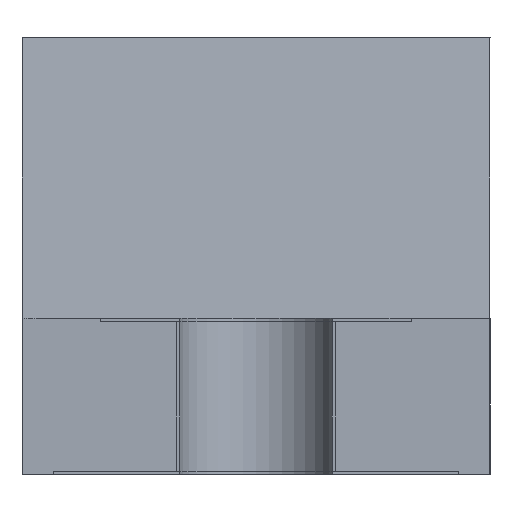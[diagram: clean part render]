
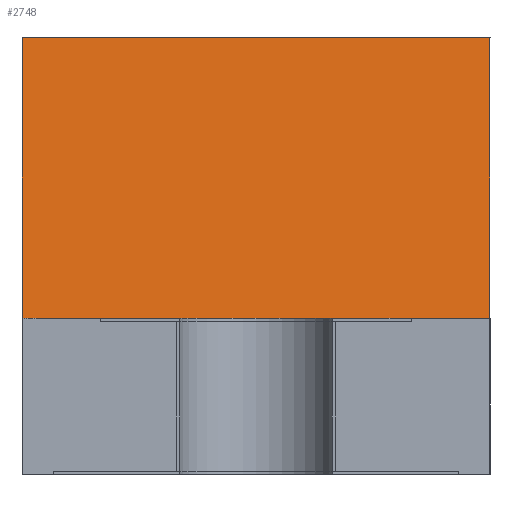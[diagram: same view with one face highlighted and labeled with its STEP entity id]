
A CAD part, left-side view. The second image highlights one B-rep face of the part: STEP entity #2748.
In plain terms, the highlighted planar face has unit normal (-0.994, 0, 0.11).
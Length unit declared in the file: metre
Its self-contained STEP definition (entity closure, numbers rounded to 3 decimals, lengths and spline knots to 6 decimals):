
#347=ORIENTED_EDGE('',*,*,#1084,.F.);
#348=ORIENTED_EDGE('',*,*,#1085,.F.);
#349=ORIENTED_EDGE('',*,*,#1077,.T.);
#350=ORIENTED_EDGE('',*,*,#1086,.T.);
#1077=EDGE_CURVE('',#1455,#1456,#1725,.T.);
#1084=EDGE_CURVE('',#1461,#1462,#1732,.T.);
#1085=EDGE_CURVE('',#1455,#1461,#1733,.T.);
#1086=EDGE_CURVE('',#1456,#1462,#1734,.T.);
#1455=VERTEX_POINT('',#3971);
#1456=VERTEX_POINT('',#3972);
#1461=VERTEX_POINT('',#3986);
#1462=VERTEX_POINT('',#3987);
#1725=LINE('',#3970,#2020);
#1732=LINE('',#3985,#2027);
#1733=LINE('',#3988,#2028);
#1734=LINE('',#3989,#2029);
#2020=VECTOR('',#3313,1.);
#2027=VECTOR('',#3324,1.);
#2028=VECTOR('',#3325,1.);
#2029=VECTOR('',#3326,1.);
#2302=EDGE_LOOP('',(#347,#348,#349,#350));
#2471=FACE_BOUND('',#2302,.T.);
#2633=PLANE('',#3042);
#2748=ADVANCED_FACE('',(#2471),#2633,.F.);
#3042=AXIS2_PLACEMENT_3D('',#3984,#3322,#3323);
#3313=DIRECTION('',(0.,1.,0.));
#3322=DIRECTION('',(0.994,0.,-0.11));
#3323=DIRECTION('',(-0.11,0.,-0.994));
#3324=DIRECTION('',(0.,1.,0.));
#3325=DIRECTION('',(-0.11,0.,-0.994));
#3326=DIRECTION('',(-0.11,0.,-0.994));
#3970=CARTESIAN_POINT('',(-0.0009,-0.000752,0.0014));
#3971=CARTESIAN_POINT('',(-0.0009,-0.00075,0.0014));
#3972=CARTESIAN_POINT('',(-0.0009,0.00075,0.0014));
#3984=CARTESIAN_POINT('',(-0.00095,-0.000752,0.00095));
#3985=CARTESIAN_POINT('',(-0.001,-0.000752,0.0005));
#3986=CARTESIAN_POINT('',(-0.001,-0.00075,0.0005));
#3987=CARTESIAN_POINT('',(-0.001,0.00075,0.0005));
#3988=CARTESIAN_POINT('',(-0.00095,-0.00075,0.00095));
#3989=CARTESIAN_POINT('',(-0.00095,0.00075,0.00095));
